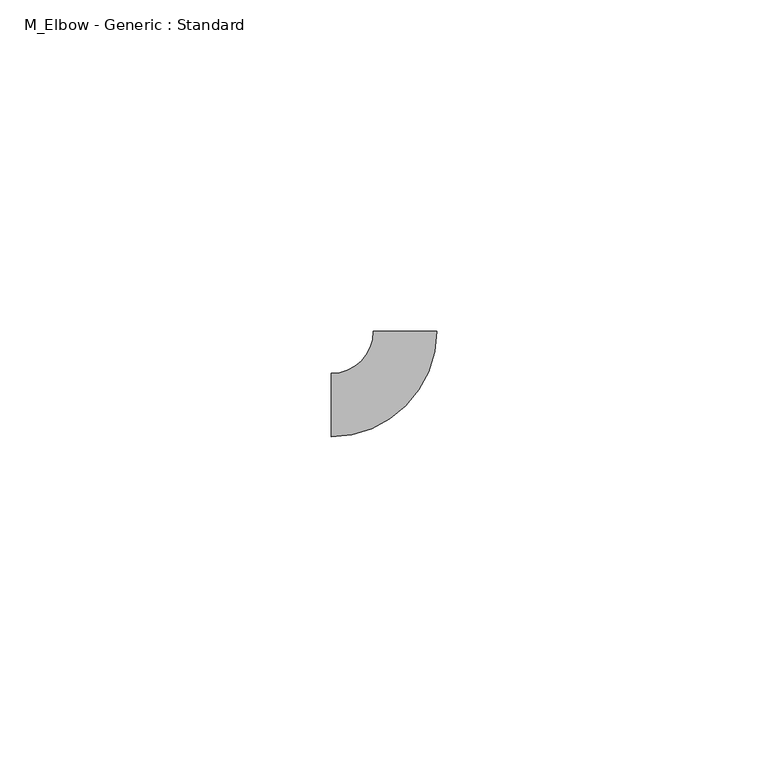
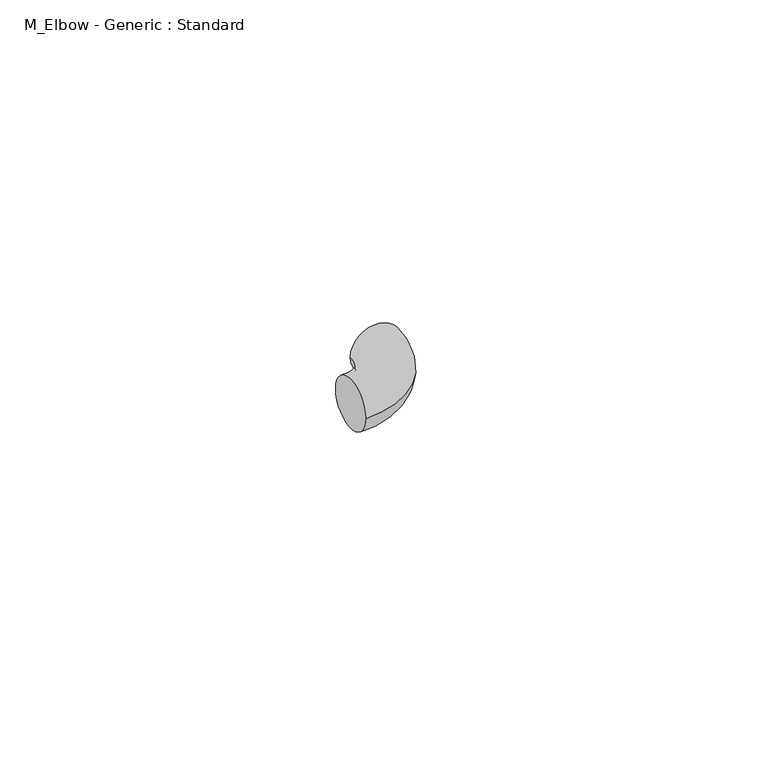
"""IFC4 building model written with IfcOpenShell, lengths in millimetres: pipe fitting geometry, M_Elbow - Generic : Standard."""

from ifc_helpers import new_model, si_unit, point, frame, origin, place, context, project, spatial, circle_curve, ellipse_curve, trimmed, source, transform, mapped, element, save
from ifc_brep_helpers import plane_surface, revolved_surface, advanced_brep


def m_elbow_generic_standard_787ffbaa(model_context):
    return source(origin(), model_context, "Body", "AdvancedBrep", [
        advanced_brep(
        [(-11.1125, -4.7625, 0.0), (-11.1125, 4.7625, 0.0), (4.7625, 11.1125, 0.0), (-4.7625, 11.1125, 0.0)],
        [
            (0, 1, circle_curve(frame((-11.1125, 0.0, 0.0), z_axis=(-1.0, 0.0, 0.0), x_axis=(0.0, 1.0, 0.0)), 4.7625)),
            (1, 0, circle_curve(frame((-11.1125, 0.0, 0.0), z_axis=(-1.0, 0.0, 0.0), x_axis=(0.0, 1.0, 0.0)), 4.7625)),
            (2, 3, circle_curve(frame((0.0, 11.1125, 0.0), z_axis=(0.0, 1.0, 0.0), x_axis=(-1.0, 0.0, 0.0)), 4.7625)),
            (3, 2, circle_curve(frame((0.0, 11.1125, 0.0), z_axis=(0.0, 1.0, 0.0), x_axis=(-1.0, 0.0, 0.0)), 4.7625)),
            (3, 1, circle_curve(frame((-11.1125, 11.1125, 0.0), z_axis=(0.0, 0.0, -1.0), x_axis=(0.0, -1.0, 0.0)), 6.35)),
            (0, 2, circle_curve(frame((-11.1125, 11.1125, 0.0), z_axis=(0.0, 0.0, 1.0), x_axis=(0.0, -1.0, 0.0)), 15.875)),
        ],
        [
            plane_surface(frame((-11.1125, 0.0, 0.0), z_axis=(-1.0, 0.0, 0.0), x_axis=(0.0, 0.0, 1.0))),
            plane_surface(frame((0.0, 11.1125, 0.0), z_axis=(0.0, 1.0, 0.0), x_axis=(0.0, 0.0, 1.0))),
            revolved_surface(trimmed(ellipse_curve(frame((-11.1125, 0.0, 0.0), z_axis=(-1.0, 0.0, 0.0), x_axis=(0.0, 1.0, 0.0)), 4.7625, 4.7625), [point((-11.1125, -4.7625, 0.0))], [point((-11.1125, 4.7625, 0.0))], True, "CARTESIAN"), (-11.1125, 11.1125, 0.0), (0.0, 0.0, 1.0)),
            revolved_surface(trimmed(ellipse_curve(frame((-11.1125, 0.0, 0.0), z_axis=(-1.0, 0.0, 0.0), x_axis=(0.0, 1.0, 0.0)), 4.7625, 4.7625), [point((-11.1125, 4.7625, 0.0))], [point((-11.1125, -4.7625, 0.0))], True, "CARTESIAN"), (-11.1125, 11.1125, 0.0), (0.0, 0.0, 1.0)),
        ],
        [
            (0, [[1, 2]]),
            (1, [[3, 4]]),
            (2, [[5, -1, 6, -4]]),
            (3, [[-6, -2, -5, -3]]),
        ],
    ),
    ])


if __name__ == "__main__":
    model = new_model("IFC4")
    model_context = context("Model", 3, world=origin())
    ifc_project = project(units=[si_unit("LENGTHUNIT", "METRE", prefix="MILLI")], contexts=[model_context])
    site = spatial("IfcSite", under=ifc_project)
    building = spatial("IfcBuilding", under=site)
    placement = place(None, origin())
    m_elbow_generic_standard_shape = m_elbow_generic_standard_787ffbaa(model_context)
    element("IfcPipeFitting", 1, ObjectType="M_Elbow - Generic : Standard", at=placement, inside=building, context=model_context, shape_type="MappedRepresentation", body=[
        mapped(m_elbow_generic_standard_shape, transform((0.0, 0.0, 0.0), x_axis=(1.0, 0.0, 0.0), y_axis=(0.0, 1.0, 0.0), z_axis=(0.0, 0.0, 1.0))),
    ])
    save(model, "model.ifc")
